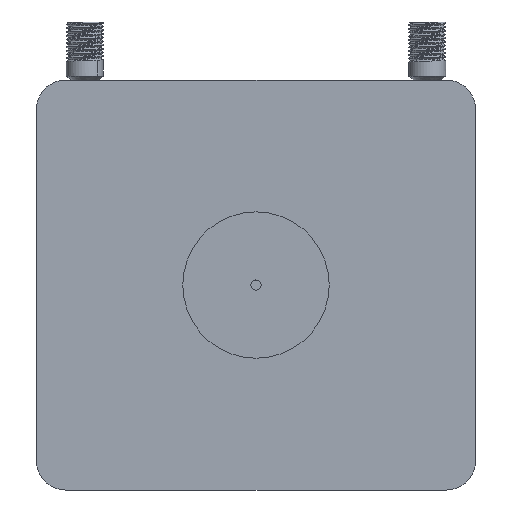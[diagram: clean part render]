
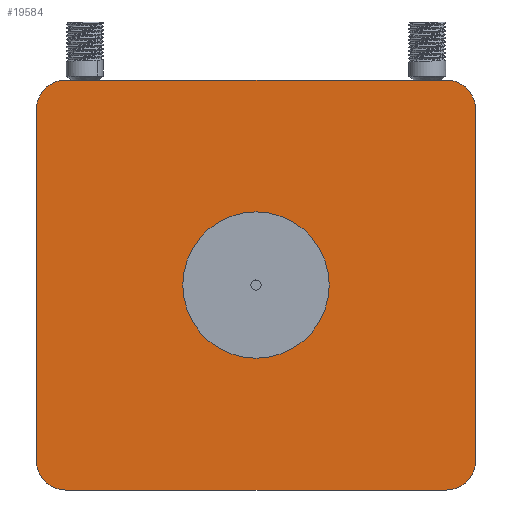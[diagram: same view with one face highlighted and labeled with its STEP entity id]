
A CAD part, front view. The second image highlights one B-rep face of the part: STEP entity #19584.
In plain terms, the highlighted planar face has unit normal (0, -1, 0) as drawn and (0, 1, 0) by its records, which use the part's own axes.
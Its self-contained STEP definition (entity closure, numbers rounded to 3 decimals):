
#5 = VERTEX_POINT ( 'NONE', #40718 ) ;
#344 = AXIS2_PLACEMENT_3D ( 'NONE', #22508, #26016, #35441 ) ;
#530 = CARTESIAN_POINT ( 'NONE',  ( 65., 8., -70. ) ) ;
#902 = CARTESIAN_POINT ( 'NONE',  ( 0., 8., -25. ) ) ;
#1138 = LINE ( 'NONE', #34415, #14106 ) ;
#1606 = EDGE_CURVE ( 'NONE', #11477, #17992, #13159, .T. ) ;
#2589 = EDGE_LOOP ( 'NONE', ( #36024, #22656, #22085, #6152, #28670, #4266, #21165, #33830 ) ) ;
#2814 = AXIS2_PLACEMENT_3D ( 'NONE', #17193, #27484, #20915 ) ;
#2873 = VERTEX_POINT ( 'NONE', #35945 ) ;
#3737 = EDGE_CURVE ( 'NONE', #28236, #38933, #41718, .T. ) ;
#4081 = CARTESIAN_POINT ( 'NONE',  ( -65., 8., -70. ) ) ;
#4266 = ORIENTED_EDGE ( 'NONE', *, *, #26472, .T. ) ;
#4772 = AXIS2_PLACEMENT_3D ( 'NONE', #13001, #22640, #26585 ) ;
#5345 = VERTEX_POINT ( 'NONE', #11626 ) ;
#6152 = ORIENTED_EDGE ( 'NONE', *, *, #35592, .T. ) ;
#6310 = VECTOR ( 'NONE', #26355, 1000. ) ;
#6449 = CARTESIAN_POINT ( 'NONE',  ( 75., 8., -60. ) ) ;
#7048 = CIRCLE ( 'NONE', #28717, 10. ) ;
#7797 = CARTESIAN_POINT ( 'NONE',  ( 0., 8., 0. ) ) ;
#8929 = CARTESIAN_POINT ( 'NONE',  ( -65., 8., 70. ) ) ;
#9649 = VERTEX_POINT ( 'NONE', #20046 ) ;
#9763 = CIRCLE ( 'NONE', #2814, 10. ) ;
#10143 = DIRECTION ( 'NONE',  ( 0., 1., 0. ) ) ;
#11477 = VERTEX_POINT ( 'NONE', #40543 ) ;
#11626 = CARTESIAN_POINT ( 'NONE',  ( 0., 8., 25. ) ) ;
#12992 = LINE ( 'NONE', #6449, #6310 ) ;
#13001 = CARTESIAN_POINT ( 'NONE',  ( -65., 8., 60. ) ) ;
#13159 = CIRCLE ( 'NONE', #4772, 10. ) ;
#13782 = ORIENTED_EDGE ( 'NONE', *, *, #26465, .F. ) ;
#13981 = AXIS2_PLACEMENT_3D ( 'NONE', #20645, #10143, #23292 ) ;
#14106 = VECTOR ( 'NONE', #40965, 1000. ) ;
#15414 = ORIENTED_EDGE ( 'NONE', *, *, #39022, .F. ) ;
#16171 = VERTEX_POINT ( 'NONE', #902 ) ;
#16497 = CIRCLE ( 'NONE', #17213, 25. ) ;
#16786 = LINE ( 'NONE', #29292, #34310 ) ;
#16954 = CARTESIAN_POINT ( 'NONE',  ( -65., 8., -60. ) ) ;
#17193 = CARTESIAN_POINT ( 'NONE',  ( 65., 8., -60. ) ) ;
#17213 = AXIS2_PLACEMENT_3D ( 'NONE', #7797, #30560, #37142 ) ;
#17992 = VERTEX_POINT ( 'NONE', #8929 ) ;
#18507 = CARTESIAN_POINT ( 'NONE',  ( 65., 8., -70. ) ) ;
#19584 = ADVANCED_FACE ( 'NONE', ( #39142, #25570 ), #22064, .T. ) ;
#20046 = CARTESIAN_POINT ( 'NONE',  ( 75., 8., 60. ) ) ;
#20232 = DIRECTION ( 'NONE',  ( 0., 0., 1. ) ) ;
#20645 = CARTESIAN_POINT ( 'NONE',  ( 0., 8., 0. ) ) ;
#20915 = DIRECTION ( 'NONE',  ( 0., 0., -1. ) ) ;
#21165 = ORIENTED_EDGE ( 'NONE', *, *, #25762, .T. ) ;
#21811 = DIRECTION ( 'NONE',  ( 0., 0., -1. ) ) ;
#22064 = PLANE ( 'NONE',  #344 ) ;
#22085 = ORIENTED_EDGE ( 'NONE', *, *, #1606, .T. ) ;
#22508 = CARTESIAN_POINT ( 'NONE',  ( -50., 8., -50. ) ) ;
#22640 = DIRECTION ( 'NONE',  ( 0., 1., 0. ) ) ;
#22656 = ORIENTED_EDGE ( 'NONE', *, *, #32934, .T. ) ;
#23292 = DIRECTION ( 'NONE',  ( 0., 0., 1. ) ) ;
#23521 = DIRECTION ( 'NONE',  ( 0., 1., 0. ) ) ;
#24260 = VECTOR ( 'NONE', #31438, 1000. ) ;
#25570 = FACE_OUTER_BOUND ( 'NONE', #2589, .T. ) ;
#25762 = EDGE_CURVE ( 'NONE', #5, #28236, #9763, .T. ) ;
#25849 = CARTESIAN_POINT ( 'NONE',  ( -75., 8., -60. ) ) ;
#26016 = DIRECTION ( 'NONE',  ( 0., 1., 0. ) ) ;
#26223 = AXIS2_PLACEMENT_3D ( 'NONE', #16954, #23521, #20232 ) ;
#26355 = DIRECTION ( 'NONE',  ( 0., 0., -1. ) ) ;
#26465 = EDGE_CURVE ( 'NONE', #16171, #5345, #32861, .T. ) ;
#26472 = EDGE_CURVE ( 'NONE', #9649, #5, #12992, .T. ) ;
#26585 = DIRECTION ( 'NONE',  ( 0., 0., -1. ) ) ;
#27484 = DIRECTION ( 'NONE',  ( 0., 1., 0. ) ) ;
#28236 = VERTEX_POINT ( 'NONE', #530 ) ;
#28592 = CARTESIAN_POINT ( 'NONE',  ( 65., 8., 60. ) ) ;
#28670 = ORIENTED_EDGE ( 'NONE', *, *, #33289, .T. ) ;
#28717 = AXIS2_PLACEMENT_3D ( 'NONE', #28592, #41728, #21811 ) ;
#29292 = CARTESIAN_POINT ( 'NONE',  ( -75., 8., -60. ) ) ;
#30560 = DIRECTION ( 'NONE',  ( 0., 1., 0. ) ) ;
#31438 = DIRECTION ( 'NONE',  ( -1., 0., 0. ) ) ;
#32861 = CIRCLE ( 'NONE', #13981, 25. ) ;
#32934 = EDGE_CURVE ( 'NONE', #38139, #11477, #16786, .T. ) ;
#33289 = EDGE_CURVE ( 'NONE', #2873, #9649, #7048, .T. ) ;
#33830 = ORIENTED_EDGE ( 'NONE', *, *, #3737, .T. ) ;
#34310 = VECTOR ( 'NONE', #43071, 1000. ) ;
#34415 = CARTESIAN_POINT ( 'NONE',  ( 65., 8., 70. ) ) ;
#35441 = DIRECTION ( 'NONE',  ( 0., 0., 1. ) ) ;
#35592 = EDGE_CURVE ( 'NONE', #17992, #2873, #1138, .T. ) ;
#35945 = CARTESIAN_POINT ( 'NONE',  ( 65., 8., 70. ) ) ;
#36024 = ORIENTED_EDGE ( 'NONE', *, *, #37388, .T. ) ;
#37142 = DIRECTION ( 'NONE',  ( 0., 0., 1. ) ) ;
#37388 = EDGE_CURVE ( 'NONE', #38933, #38139, #38820, .T. ) ;
#38139 = VERTEX_POINT ( 'NONE', #25849 ) ;
#38573 = EDGE_LOOP ( 'NONE', ( #13782, #15414 ) ) ;
#38820 = CIRCLE ( 'NONE', #26223, 10. ) ;
#38933 = VERTEX_POINT ( 'NONE', #4081 ) ;
#39022 = EDGE_CURVE ( 'NONE', #5345, #16171, #16497, .T. ) ;
#39142 = FACE_BOUND ( 'NONE', #38573, .T. ) ;
#40543 = CARTESIAN_POINT ( 'NONE',  ( -75., 8., 60. ) ) ;
#40718 = CARTESIAN_POINT ( 'NONE',  ( 75., 8., -60. ) ) ;
#40965 = DIRECTION ( 'NONE',  ( 1., 0., 0. ) ) ;
#41718 = LINE ( 'NONE', #18507, #24260 ) ;
#41728 = DIRECTION ( 'NONE',  ( 0., 1., 0. ) ) ;
#43071 = DIRECTION ( 'NONE',  ( 0., 0., 1. ) ) ;
